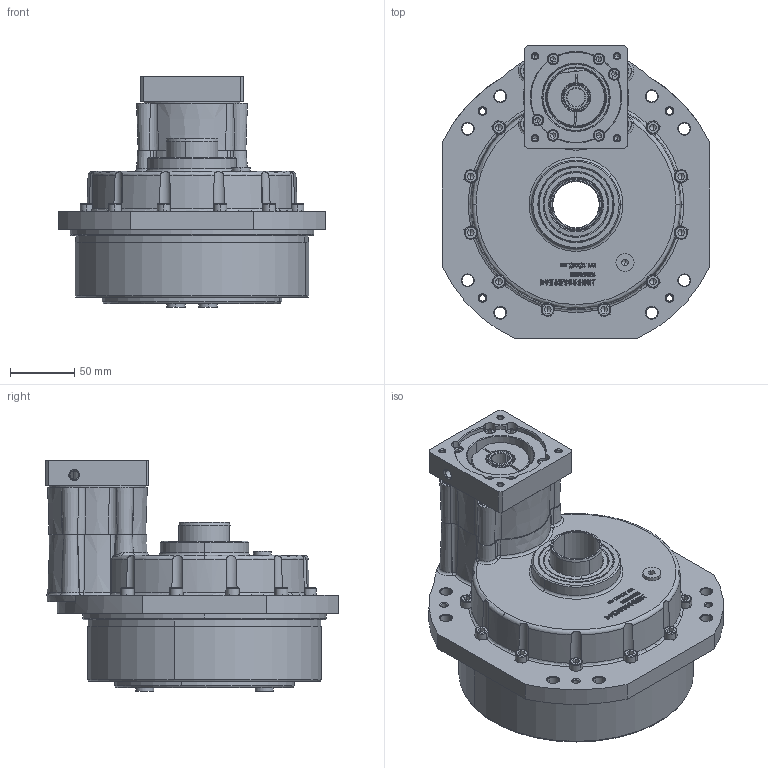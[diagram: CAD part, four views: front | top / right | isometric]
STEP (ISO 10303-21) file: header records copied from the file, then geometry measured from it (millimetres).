
FILE_DESCRIPTION (( 'STEP AP214' ), '1' );
FILE_NAME ('RDS-27C-ASSY-7090M5-14.STEP', '2022-11-13T02:36:37', ( '' ), ( '' ), 'SwSTEP 2.0', 'SolidWorks 2020', '' );
FILE_SCHEMA (( 'AUTOMOTIVE_DESIGN' ));
Length unit declared in the file: millimetre
Products named in the file (20): RDS-27C-ASSY-7090M5-14; 27C笢潔楊擘.stp; 27CBX-OP00.stp; 19-14.stp; 27C假蚾楊擘-02new.stp; RDS-27C-ASSY-7090M5-14.stp; 坶踡ん22-45.stp; JIS B 2402 - 40 58 8 A(7).stp; JIS B 2402 - 40 52 8 A(7).stp; 蹟隊 GB_T 70.1 M5 x 25.stp; 蹟隊 GB_T 70.1 M6 x 50.stp; RDS-27C-输入轴30.stp; 錨璃350^RDS-27C-ASSY-7090M5-14; 弹性挡圈GB 894.1-86 - 40.stp; 粣創 61908-2LS GB_T 276-94.stp; 蹟隊 GB_T 70.1 M6 x 30.stp; DIN 908 - M10 x 1.stp; 腴厒奪-27C.stp; 蹟隊 GB_T 70.1 M4 x 16.stp; 萇儂假蚾楊擘70-90-80-18.stp
Assembly tree (41 placements, depth 3):
  RDS-27C-ASSY-7090M5-14
    RDS-27C-ASSY-7090M5-14.stp
      27CBX-OP00.stp
      27C假蚾楊擘-02new.stp
      粣創 61908-2LS GB_T 276-94.stp
      27C笢潔楊擘.stp
      JIS B 2402 - 40 58 8 A(7).stp
      RDS-27C-输入轴30.stp
      弹性挡圈GB 894.1-86 - 40.stp
      JIS B 2402 - 40 52 8 A(7).stp
      萇儂假蚾楊擘70-90-80-18.stp
      坶踡ん22-45.stp
      蹟隊 GB_T 70.1 M5 x 25.stp  x6
      蹟隊 GB_T 70.1 M6 x 50.stp  x4
      DIN 908 - M10 x 1.stp  x3
      腴厒奪-27C.stp
      蹟隊 GB_T 70.1 M4 x 16.stp  x4
      蹟隊 GB_T 70.1 M6 x 30.stp  x10
      19-14.stp
    錨璃350^RDS-27C-ASSY-7090M5-14
Bounding box: 207.4 x 226.7 x 179 mm (x, y, z)
Volume: 2367750.3 mm3; surface area: 431506.8 mm2
Topology: 120 solids, 120 shells, 3766 faces, 9635 edges, 6140 vertices
Faces by surface type: plane 1597, cone 665, cylinder 606, bspline 582, torus 288, sphere 28
Entity records: 130054 total; most frequent: CARTESIAN_POINT 51581, ORIENTED_EDGE 16666, DIRECTION 14126, EDGE_CURVE 8333, VERTEX_POINT 5364, VECTOR 4802, LINE 4802, AXIS2_PLACEMENT_3D 4662
